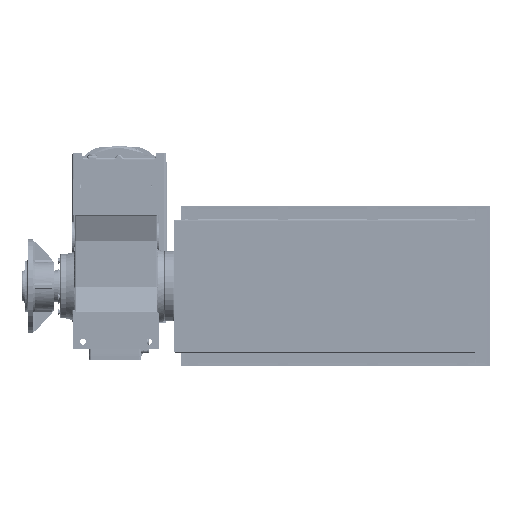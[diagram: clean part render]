
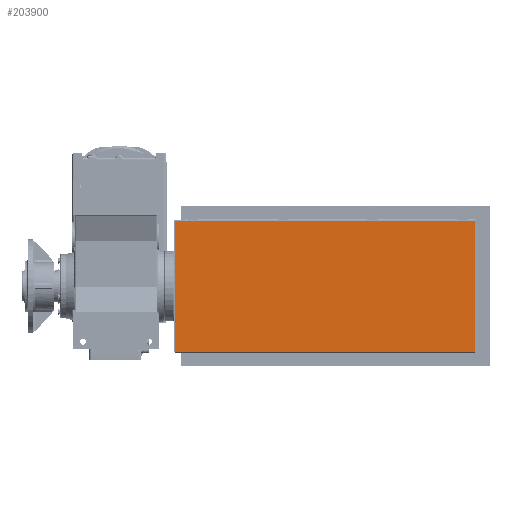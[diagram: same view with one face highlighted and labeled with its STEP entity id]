
A CAD part, front view. The second image highlights one B-rep face of the part: STEP entity #203900.
In plain terms, the highlighted planar face has unit normal (0, -1, 0).
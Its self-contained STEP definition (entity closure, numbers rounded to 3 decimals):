
#19443=FACE_OUTER_BOUND('',#31649,.T.);
#31649=EDGE_LOOP('',(#160203,#160204,#160205,#160206));
#45873=LINE('',#346376,#62789);
#45875=LINE('',#346387,#62791);
#45876=LINE('',#346388,#62792);
#45877=LINE('',#346389,#62793);
#62789=VECTOR('',#258400,1138.);
#62791=VECTOR('',#258412,1138.);
#62792=VECTOR('',#258413,496.032);
#62793=VECTOR('',#258414,496.032);
#88772=VERTEX_POINT('',#346373);
#88773=VERTEX_POINT('',#346375);
#88776=VERTEX_POINT('',#346385);
#88777=VERTEX_POINT('',#346386);
#113654=EDGE_CURVE('',#88773,#88772,#45873,.T.);
#113659=EDGE_CURVE('',#88776,#88777,#45875,.T.);
#113660=EDGE_CURVE('',#88773,#88777,#45876,.T.);
#113661=EDGE_CURVE('',#88776,#88772,#45877,.T.);
#160203=ORIENTED_EDGE('',*,*,#113659,.T.);
#160204=ORIENTED_EDGE('',*,*,#113660,.F.);
#160205=ORIENTED_EDGE('',*,*,#113654,.T.);
#160206=ORIENTED_EDGE('',*,*,#113661,.F.);
#182705=PLANE('',#219657);
#203900=ADVANCED_FACE('',(#19443),#182705,.F.);
#219657=AXIS2_PLACEMENT_3D('',#346384,#258410,#258411);
#258400=DIRECTION('',(1.,0.,0.));
#258410=DIRECTION('center_axis',(0.,1.,0.));
#258411=DIRECTION('ref_axis',(-1.,0.,0.));
#258412=DIRECTION('',(-1.,0.,0.));
#258413=DIRECTION('',(0.,0.,1.));
#258414=DIRECTION('',(0.,0.,-1.));
#346373=CARTESIAN_POINT('',(1400.51,-268.636,-394.481));
#346375=CARTESIAN_POINT('',(262.51,-268.636,-394.481));
#346376=CARTESIAN_POINT('',(547.01,-268.636,-394.481));
#346384=CARTESIAN_POINT('Origin',(831.51,-268.636,-146.465));
#346385=CARTESIAN_POINT('',(1400.51,-268.636,101.551));
#346386=CARTESIAN_POINT('',(262.51,-268.636,101.551));
#346387=CARTESIAN_POINT('',(1116.01,-268.636,101.551));
#346388=CARTESIAN_POINT('',(262.51,-268.636,-396.465));
#346389=CARTESIAN_POINT('',(1400.51,-268.636,103.535));
